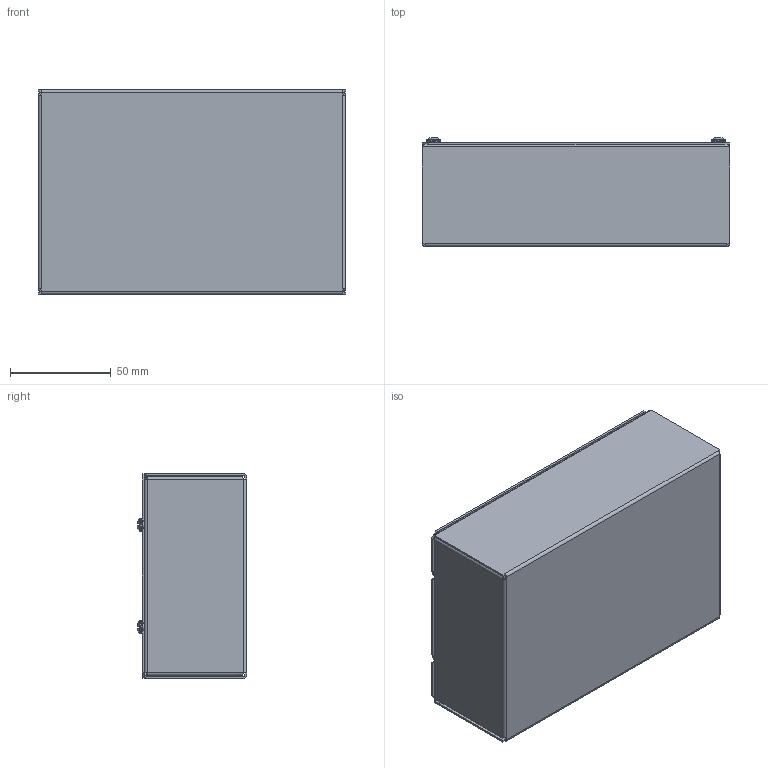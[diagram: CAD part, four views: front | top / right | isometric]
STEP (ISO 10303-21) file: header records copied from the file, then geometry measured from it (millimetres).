
FILE_DESCRIPTION((''),'2;1');
FILE_NAME('E:\Eng\Customer Service\Drawings\1441 & 1431\STEP Files\1441-8\1441-8 - Assembly.iam.stp','2013-07-10T11:34:14',(''),(''),'Autodesk Inventor 2013','Autodesk Inventor 2013','');
FILE_SCHEMA(('AUTOMOTIVE_DESIGN { 1 0 10303 214 1 1 1 1 }'));
Length unit declared in the file: inch
Products named in the file (4): 1441-8 - Assembly; 1441-8; 1431-8; 6-32 (SC18394)
Assembly tree (6 placements, depth 2):
  1441-8 - Assembly
    1441-8
    1431-8
    6-32 (SC18394)  x4
Bounding box: 152.4 x 54.23 x 101.6 mm (x, y, z)
Volume: 56237.2 mm3; surface area: 124302.1 mm2
Topology: 6 solids, 6 shells, 248 faces, 616 edges, 384 vertices
Faces by surface type: plane 184, cylinder 40, bspline 16, torus 8
Full cylindrical faces by diameter (mm): 2.946 x4, 3.404 x4, 6.731 x4
Entity records: 5192 total; most frequent: CARTESIAN_POINT 1247, ORIENTED_EDGE 794, DIRECTION 758, EDGE_CURVE 397, VECTOR 310, LINE 310, VERTEX_POINT 245, AXIS2_PLACEMENT_3D 224
